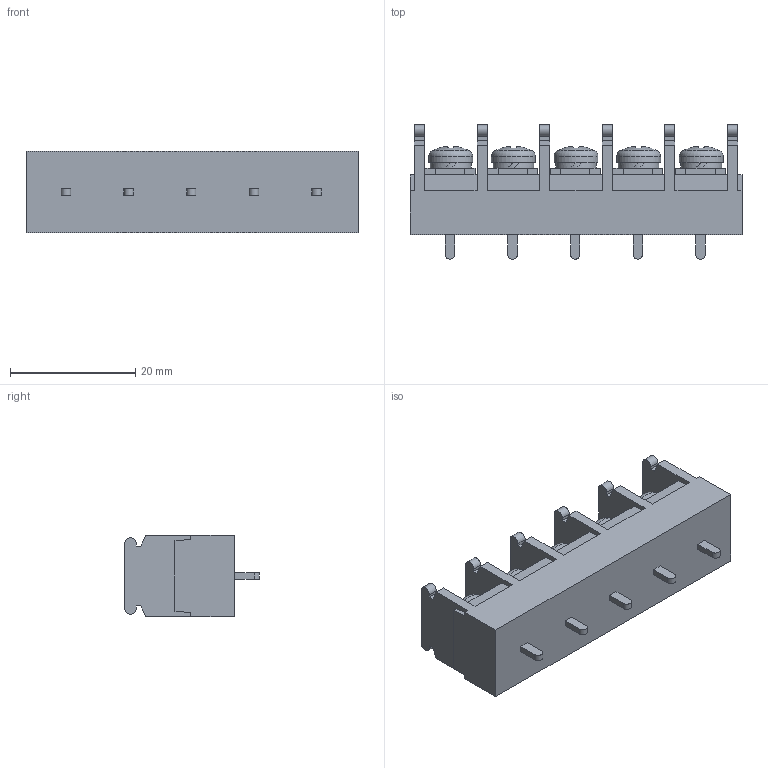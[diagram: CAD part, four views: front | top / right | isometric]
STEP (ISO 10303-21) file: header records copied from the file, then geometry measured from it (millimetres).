
FILE_DESCRIPTION(/* description */ ('Alibre Inc.'),/* implementation_level */ '2;1');
FILE_NAME(/* name */ 'export0',/* time_stamp */ '2015-10-17T19:41:01+09:00',/* author */ (''),/* organization */ (''),/* preprocessor_version */ 'ST-DEVELOPER v14',/* originating_system */ 'Alibre',/* authorisation */ '');
FILE_SCHEMA (('CONFIG_CONTROL_DESIGN'));
Length unit declared in the file: centimetre
Products named in the file (1): ID_1
Bounding box: 53 x 21.44 x 13 mm (x, y, z)
Volume: 8162.7 mm3; surface area: 5301.7 mm2
Topology: 1 solids, 17 shells, 719 faces, 1950 edges, 1300 vertices
Faces by surface type: plane 548, bspline 104, cylinder 37, cone 20, sphere 5, torus 5
Full cylindrical faces by diameter (mm): 4 x5, 7 x5
Entity records: 22051 total; most frequent: CARTESIAN_POINT 5031, ORIENTED_EDGE 3850, DIRECTION 2600, EDGE_CURVE 1925, VECTOR 1453, LINE 1453, VERTEX_POINT 1290, AXIS2_PLACEMENT_3D 840
